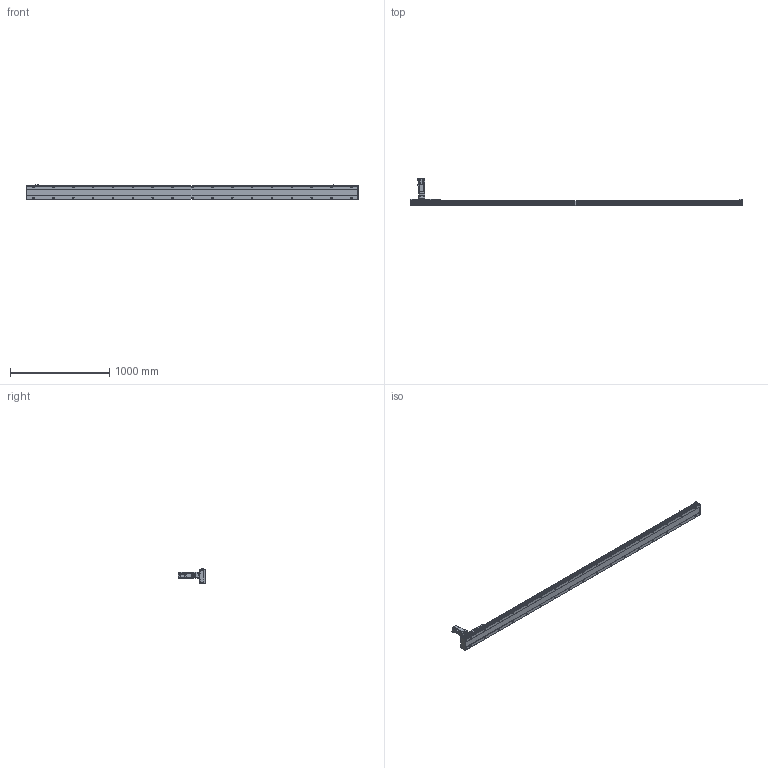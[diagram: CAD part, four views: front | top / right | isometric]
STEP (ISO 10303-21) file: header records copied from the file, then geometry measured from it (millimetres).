
FILE_DESCRIPTION(/* description */ ('STEP AP203'),/* implementation_level */ '2;1');
FILE_NAME(/* name */ 'SHS14A-L10-S3000-BC-T40-C1-N(0)',/* time_stamp */ '2023-03-27T08:52:44+02:00',/* author */ ('License CC BY-ND 4.0'),/* organization */ ('CADENAS'),/* preprocessor_version */ 'ST-DEVELOPER v19.3',/* originating_system */ 'PARTsolutions',/* authorisation */ ' ');
FILE_SCHEMA (('CONFIG_CONTROL_DESIGN'));
Length unit declared in the file: millimetre
Products named in the file (7): SHS14A-L10-S3000-BC-T40-C1-N(0); PSC140-sensor; T40-p1; SHS14AT_body3; SHS14A-3000_slider; SHS14A_body2; SHS14A-S3000-BC-T40-C1(0)_body
Assembly tree (13 placements, depth 2):
  SHS14A-L10-S3000-BC-T40-C1-N(0)
    PSC140-sensor  x3
    T40-p1
    SHS14AT_body3
    SHS14A-3000_slider
    SHS14A_body2  x6
    SHS14A-S3000-BC-T40-C1(0)_body
Bounding box: 3340 x 272.7 x 150.9 mm (x, y, z)
Volume: 13615895 mm3; surface area: 2114403.1 mm2
Topology: 13 solids, 13 shells, 2172 faces, 5543 edges, 3624 vertices
Faces by surface type: plane 1497, cylinder 579, cone 86, torus 10
Full cylindrical faces by diameter (mm): 2.8 x3, 4.134 x24, 4.2 x7, 4.4 x24, 4.5 x24, 4.6 x3, 4.8 x24, 4.917 x42, 5 x8, 5.5 x11, 5.94 x6, 6 x2, 6.6 x34, 8 x24, 8.49 x4, 8.5 x4, 9 x4, 10.5 x34, 13.964 x1, 14 x1, 14.182 x1, 16 x1, 18.974 x1, 19.274 x1, 19.774 x1, 19.8 x1, 34.442 x1, 42 x1, 50 x5
Entity records: 35564 total; most frequent: CARTESIAN_POINT 6372, DIRECTION 6009, ORIENTED_EDGE 5502, EDGE_CURVE 2751, AXIS2_PLACEMENT_3D 2113, VERTEX_POINT 1972, EDGE_LOOP 1829, FACE_BOUND 1829
